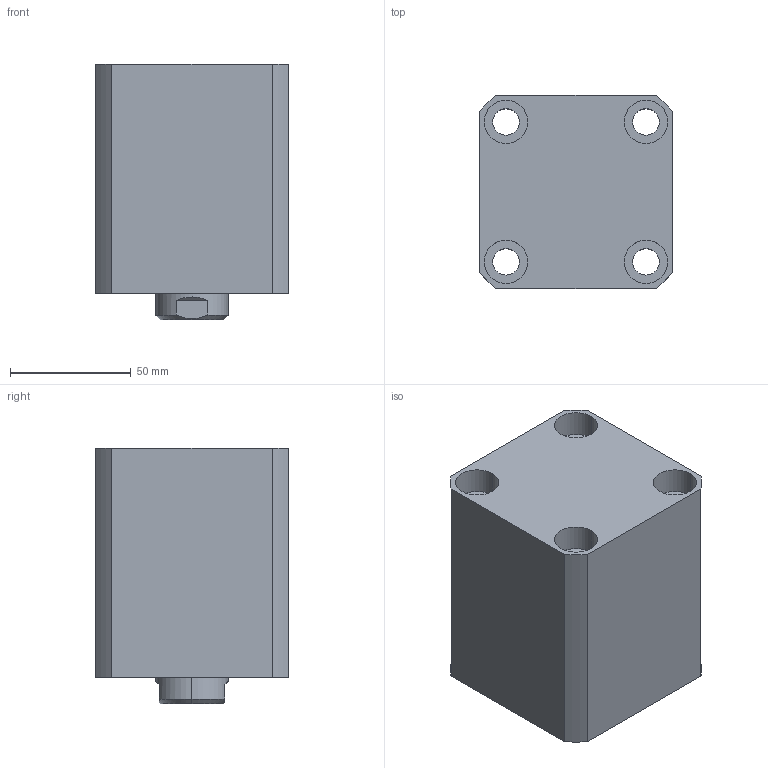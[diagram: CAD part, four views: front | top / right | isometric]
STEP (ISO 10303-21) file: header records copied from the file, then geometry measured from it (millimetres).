
FILE_DESCRIPTION (( 'STEP AP203' ), '1' );
FILE_NAME ('CHTB-SD50-35N.STEP', '2018-05-18T12:19:13', ( '' ), ( '' ), 'SwSTEP 2.0', 'SolidWorks 2015', '' );
FILE_SCHEMA (( 'CONFIG_CONTROL_DESIGN' ));
Length unit declared in the file: millimetre
Products named in the file (4): 活塞杆SD50-35N; CHTM-SD50QG; CHTB-SD50-35N; 掛极SD50-35N
Assembly tree (3 placements, depth 2):
  CHTB-SD50-35N
    掛极SD50-35N
    活塞杆SD50-35N
    CHTM-SD50QG
Bounding box: 80 x 80 x 106 mm (x, y, z)
Volume: 497713.3 mm3; surface area: 102638 mm2
Topology: 3 solids, 3 shells, 194 faces, 499 edges, 330 vertices
Faces by surface type: cylinder 104, plane 39, cone 21, torus 16, bspline 14
Entity records: 10789 total; most frequent: CARTESIAN_POINT 5840, ORIENTED_EDGE 986, DIRECTION 914, EDGE_CURVE 493, AXIS2_PLACEMENT_3D 383, VERTEX_POINT 330, EDGE_LOOP 233, CIRCLE 197
